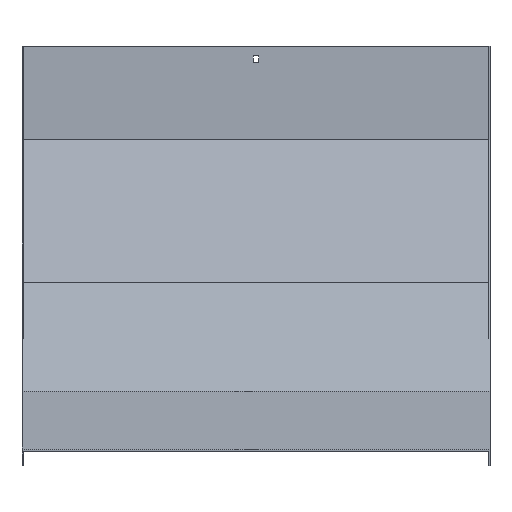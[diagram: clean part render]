
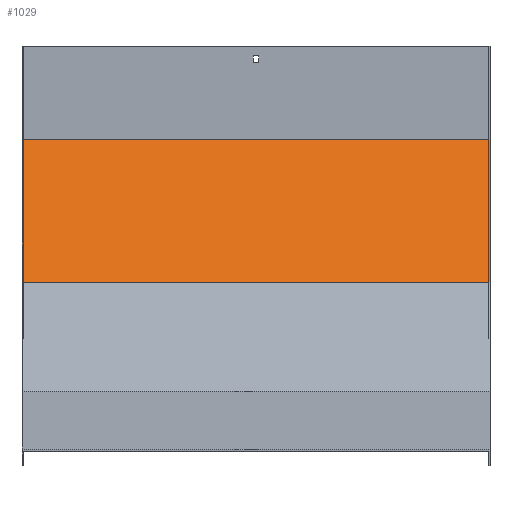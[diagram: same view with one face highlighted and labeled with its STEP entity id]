
A CAD part, top view. The second image highlights one B-rep face of the part: STEP entity #1029.
In plain terms, the highlighted planar face has unit normal (0, 0.383, 0.924).
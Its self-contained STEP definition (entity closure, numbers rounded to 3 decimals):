
#1 = VECTOR ( 'NONE', #70, 1000. ) ;
#13 = DIRECTION ( 'NONE',  ( -1., 0., 0. ) ) ;
#16 = EDGE_CURVE ( 'NONE', #303, #621, #83, .T. ) ;
#70 = DIRECTION ( 'NONE',  ( 0., 0.924, -0.383 ) ) ;
#83 = LINE ( 'NONE', #955, #1 ) ;
#86 = LINE ( 'NONE', #958, #689 ) ;
#154 = DIRECTION ( 'NONE',  ( 0., 0.383, 0.924 ) ) ;
#172 = EDGE_CURVE ( 'NONE', #1021, #621, #1070, .T. ) ;
#181 = CARTESIAN_POINT ( 'NONE',  ( 301.5, 400.72, -520.72 ) ) ;
#198 = ORIENTED_EDGE ( 'NONE', *, *, #792, .T. ) ;
#239 = PLANE ( 'NONE',  #709 ) ;
#303 = VERTEX_POINT ( 'NONE', #676 ) ;
#319 = VECTOR ( 'NONE', #1095, 1000. ) ;
#323 = CARTESIAN_POINT ( 'NONE',  ( 301.5, 216.868, -444.566 ) ) ;
#339 = DIRECTION ( 'NONE',  ( 0., -0.924, 0.383 ) ) ;
#353 = VECTOR ( 'NONE', #13, 1000. ) ;
#399 = CARTESIAN_POINT ( 'NONE',  ( -301.5, 400.72, -520.72 ) ) ;
#403 = EDGE_CURVE ( 'NONE', #488, #303, #86, .T. ) ;
#405 = ORIENTED_EDGE ( 'NONE', *, *, #16, .F. ) ;
#488 = VERTEX_POINT ( 'NONE', #630 ) ;
#538 = CARTESIAN_POINT ( 'NONE',  ( 301.5, 400.72, -520.72 ) ) ;
#548 = DIRECTION ( 'NONE',  ( -1., 0., 0. ) ) ;
#588 = CARTESIAN_POINT ( 'NONE',  ( 301.5, 216.868, -444.566 ) ) ;
#621 = VERTEX_POINT ( 'NONE', #399 ) ;
#630 = CARTESIAN_POINT ( 'NONE',  ( 301.5, 216.868, -444.566 ) ) ;
#659 = ORIENTED_EDGE ( 'NONE', *, *, #172, .T. ) ;
#668 = ORIENTED_EDGE ( 'NONE', *, *, #403, .F. ) ;
#676 = CARTESIAN_POINT ( 'NONE',  ( -301.5, 216.868, -444.566 ) ) ;
#678 = FACE_OUTER_BOUND ( 'NONE', #1085, .T. ) ;
#689 = VECTOR ( 'NONE', #548, 1000. ) ;
#709 = AXIS2_PLACEMENT_3D ( 'NONE', #588, #154, #339 ) ;
#792 = EDGE_CURVE ( 'NONE', #488, #1021, #980, .T. ) ;
#955 = CARTESIAN_POINT ( 'NONE',  ( -301.5, 216.868, -444.566 ) ) ;
#958 = CARTESIAN_POINT ( 'NONE',  ( 301.5, 216.868, -444.566 ) ) ;
#980 = LINE ( 'NONE', #323, #319 ) ;
#1021 = VERTEX_POINT ( 'NONE', #181 ) ;
#1029 = ADVANCED_FACE ( 'NONE', ( #678 ), #239, .T. ) ;
#1070 = LINE ( 'NONE', #538, #353 ) ;
#1085 = EDGE_LOOP ( 'NONE', ( #405, #668, #198, #659 ) ) ;
#1095 = DIRECTION ( 'NONE',  ( 0., 0.924, -0.383 ) ) ;
